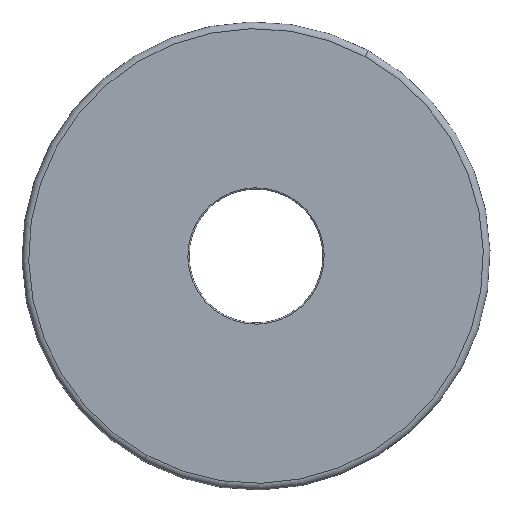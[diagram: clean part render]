
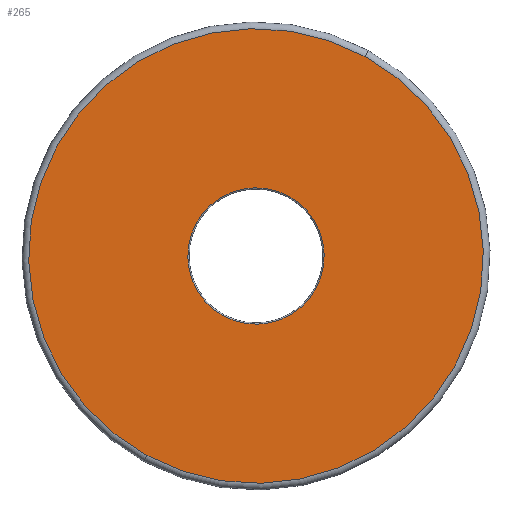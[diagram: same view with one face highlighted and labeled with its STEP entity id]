
A CAD part, front view. The second image highlights one B-rep face of the part: STEP entity #265.
In plain terms, the highlighted planar face has unit normal (0, -1, 0).
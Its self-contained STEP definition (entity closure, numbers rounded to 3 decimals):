
#63=CARTESIAN_POINT('Vertex',(-16.3,0.,-29.838)) ;
#66=CARTESIAN_POINT('Axis2P3D Location',(0.,0.,0.)) ;
#70=CARTESIAN_POINT('Vertex',(16.3,0.,29.838)) ;
#97=CARTESIAN_POINT('Axis2P3D Location',(0.,0.,0.)) ;
#238=CARTESIAN_POINT('Axis2P3D Location',(0.,0.,35.)) ;
#247=CARTESIAN_POINT('Axis2P3D Location',(0.,0.,0.)) ;
#251=CARTESIAN_POINT('Vertex',(4.89,0.,8.951)) ;
#253=CARTESIAN_POINT('Vertex',(-4.89,0.,-8.951)) ;
#256=CARTESIAN_POINT('Axis2P3D Location',(0.,0.,0.)) ;
#67=DIRECTION('Axis2P3D Direction',(-0.,1.,0.)) ;
#98=DIRECTION('Axis2P3D Direction',(0.,1.,-0.)) ;
#239=DIRECTION('Axis2P3D Direction',(0.,1.,0.)) ;
#240=DIRECTION('Axis2P3D XDirection',(1.,-0.,0.)) ;
#248=DIRECTION('Axis2P3D Direction',(0.,1.,0.)) ;
#257=DIRECTION('Axis2P3D Direction',(0.,1.,0.)) ;
#68=AXIS2_PLACEMENT_3D('Circle Axis2P3D',#66,#67,$) ;
#99=AXIS2_PLACEMENT_3D('Circle Axis2P3D',#97,#98,$) ;
#241=AXIS2_PLACEMENT_3D('Plane Axis2P3D',#238,#239,#240) ;
#249=AXIS2_PLACEMENT_3D('Circle Axis2P3D',#247,#248,$) ;
#258=AXIS2_PLACEMENT_3D('Circle Axis2P3D',#256,#257,$) ;
#244=ORIENTED_EDGE('',*,*,#101,.F.) ;
#245=ORIENTED_EDGE('',*,*,#72,.F.) ;
#262=ORIENTED_EDGE('',*,*,#255,.T.) ;
#263=ORIENTED_EDGE('',*,*,#260,.T.) ;
#264=FACE_BOUND('',#261,.T.) ;
#265=ADVANCED_FACE('PartBody',(#246,#264),#242,.F.) ;
#69=CIRCLE('generated circle',#68,34.) ;
#100=CIRCLE('generated circle',#99,34.) ;
#250=CIRCLE('generated circle',#249,10.2) ;
#259=CIRCLE('generated circle',#258,10.2) ;
#72=EDGE_CURVE('',#64,#71,#69,.T.) ;
#101=EDGE_CURVE('',#71,#64,#100,.T.) ;
#255=EDGE_CURVE('',#252,#254,#250,.T.) ;
#260=EDGE_CURVE('',#254,#252,#259,.T.) ;
#243=EDGE_LOOP('',(#244,#245)) ;
#261=EDGE_LOOP('',(#262,#263)) ;
#246=FACE_OUTER_BOUND('',#243,.T.) ;
#242=PLANE('',#241) ;
#64=VERTEX_POINT('',#63) ;
#71=VERTEX_POINT('',#70) ;
#252=VERTEX_POINT('',#251) ;
#254=VERTEX_POINT('',#253) ;
